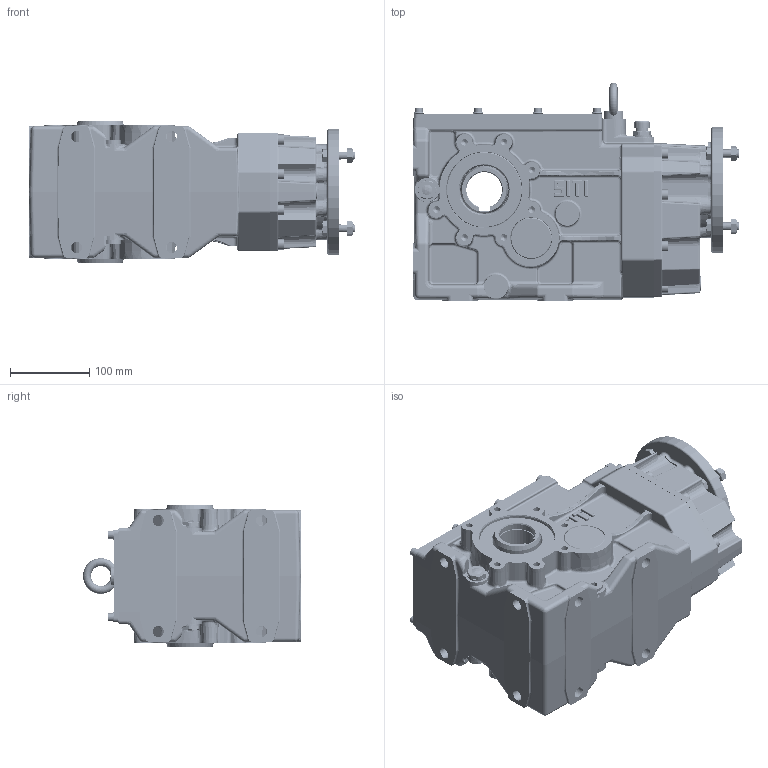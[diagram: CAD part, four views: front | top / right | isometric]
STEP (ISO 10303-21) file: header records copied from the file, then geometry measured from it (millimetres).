
FILE_DESCRIPTION((''),'2;1');
FILE_NAME('O:\Figurini\Figurini BH\3D\80\MBH 80 C PAM 71 B5.stp','2013-05-30T11:14:45',('d.iannaccio'),(''),'Autodesk Inventor 2012','Autodesk Inventor 2012','');
FILE_SCHEMA(('AUTOMOTIVE_DESIGN { 1 0 10303 214 1 1 1 1 }'));
Length unit declared in the file: millimetre
Products named in the file (1): MBH_80 C PAM 71 B5
Bounding box: 411.5 x 275 x 180 mm (x, y, z)
Volume: 3884052.5 mm3; surface area: 894465.2 mm2
Topology: 2 solids, 67 shells, 3848 faces, 9297 edges, 5601 vertices
Faces by surface type: plane 1119, cylinder 1066, bspline 800, cone 404, torus 356, sphere 103
Full cylindrical faces by diameter (mm): 4.917 x8, 6 x16, 6.4 x8, 6.647 x16, 7 x8, 8 x14, 8.376 x15, 8.5 x2, 9 x12, 10 x24, 11.445 x1, 12 x1, 12.5 x8, 13 x16, 14 x16, 14.63 x4, 14.95 x7, 15.95 x1, 16 x3, 17 x1, 18 x1, 19.5 x1, 20 x2, 20.4 x1, 25 x1, 33 x1, 34.58 x1, 34.9 x1, 34.98 x2, 45 x1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
Entity records: 133496 total; most frequent: CARTESIAN_POINT 47272, ORIENTED_EDGE 16924, DIRECTION 16613, EDGE_CURVE 8462, AXIS2_PLACEMENT_3D 6882, VERTEX_POINT 5381, EDGE_LOOP 4588, STYLED_ITEM 3849
